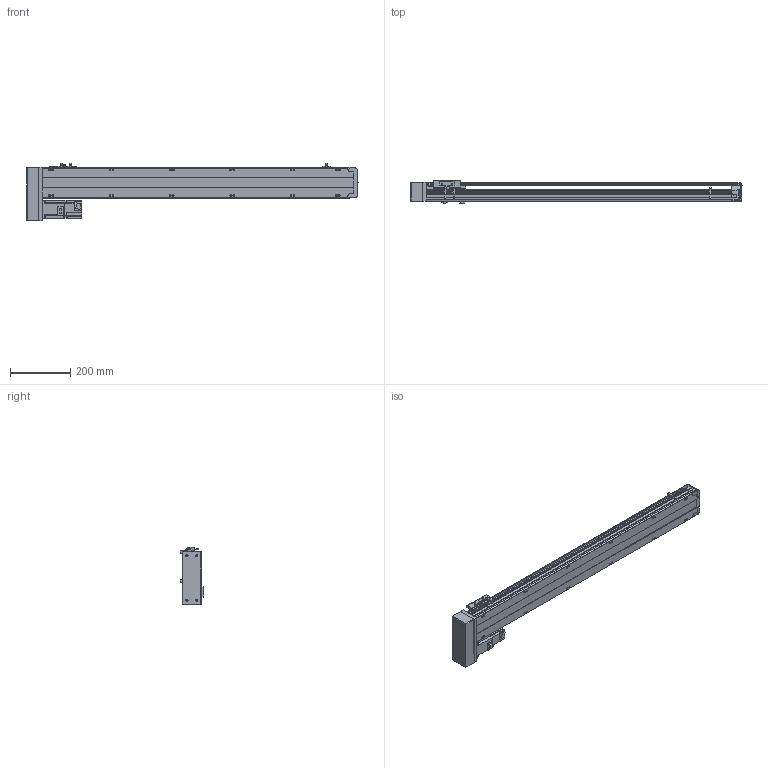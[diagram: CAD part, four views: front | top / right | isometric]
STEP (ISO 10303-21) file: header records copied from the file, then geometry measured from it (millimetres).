
FILE_DESCRIPTION(/* description */ ('STEP AP214'),/* implementation_level */ '2;1');
FILE_NAME(/* name */ 'PSS120-L10-S850-BR-T40-C1-N(0)',/* time_stamp */ '2022-06-06T02:30:54+02:00',/* author */ ('License CC BY-ND 4.0'),/* organization */ ('CADENAS'),/* preprocessor_version */ 'ST-DEVELOPER v18.102',/* originating_system */ 'PARTsolutions',/* authorisation */ ' ');
FILE_SCHEMA (('AUTOMOTIVE_DESIGN {1 0 10303 214 3 1 1}'));
Length unit declared in the file: millimetre
Products named in the file (8): PSS120-L10-S850-BR-T40-C1-N(0); PSS120-S850-BR-N_S; T40-p1; PSS120BR-N_h; PSS120-N_sensor; PSS120-BR-C1-N_sl; PSS120-N_Q; PSS120-S850-BR-C1-N_body
Assembly tree (9 placements, depth 2):
  PSS120-L10-S850-BR-T40-C1-N(0)
    PSS120-S850-BR-N_S
    T40-p1
    PSS120BR-N_h
    PSS120-N_sensor  x3
    PSS120-BR-C1-N_sl
    PSS120-N_Q
    PSS120-S850-BR-C1-N_body
Bounding box: 1099.35 x 76.8 x 191.2 mm (x, y, z)
Volume: 4268224.9 mm3; surface area: 721875.7 mm2
Topology: 9 solids, 9 shells, 848 faces, 2269 edges, 1500 vertices
Faces by surface type: plane 595, cylinder 229, cone 20, sphere 4
Full cylindrical faces by diameter (mm): 2.8 x3, 4 x4, 4.134 x16, 4.4 x2, 4.5 x4, 4.6 x3, 5 x6, 5.5 x19, 7 x2, 7.4 x4, 8 x4, 8.5 x16, 14 x1, 28 x1, 32 x2, 50 x1
Entity records: 22813 total; most frequent: CARTESIAN_POINT 4123, DIRECTION 3803, ORIENTED_EDGE 3706, EDGE_CURVE 1853, LINE 1323, VECTOR 1323, VERTEX_POINT 1284, AXIS2_PLACEMENT_3D 1240
